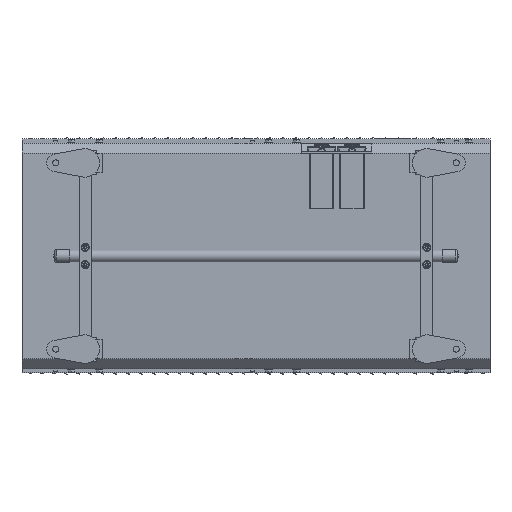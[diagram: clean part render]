
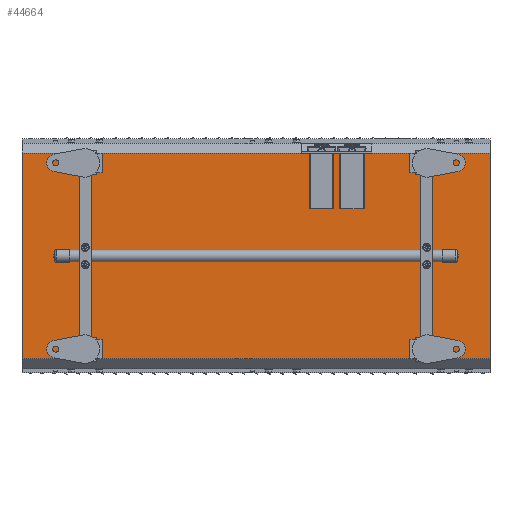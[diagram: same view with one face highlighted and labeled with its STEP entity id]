
A CAD part, front view. The second image highlights one B-rep face of the part: STEP entity #44664.
In plain terms, the highlighted planar face has unit normal (0, -1, 0).
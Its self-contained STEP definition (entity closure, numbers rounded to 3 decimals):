
#363 = LINE ( 'NONE', #39672, #6780 ) ;
#374 = FACE_OUTER_BOUND ( 'NONE', #24500, .T. ) ;
#856 = CARTESIAN_POINT ( 'NONE',  ( 1531.172, -215.213, 219.787 ) ) ;
#3366 = LINE ( 'NONE', #58360, #59254 ) ;
#3401 = VECTOR ( 'NONE', #16233, 1000. ) ;
#4819 = LINE ( 'NONE', #16623, #3401 ) ;
#6780 = VECTOR ( 'NONE', #43661, 1000. ) ;
#8327 = EDGE_CURVE ( 'NONE', #56661, #19575, #38746, .T. ) ;
#13253 = ORIENTED_EDGE ( 'NONE', *, *, #14044, .F. ) ;
#14044 = EDGE_CURVE ( 'NONE', #15127, #39178, #363, .T. ) ;
#14649 = ORIENTED_EDGE ( 'NONE', *, *, #19040, .T. ) ;
#15127 = VERTEX_POINT ( 'NONE', #48711 ) ;
#16233 = DIRECTION ( 'NONE',  ( 0., 0., -1. ) ) ;
#16623 = CARTESIAN_POINT ( 'NONE',  ( 0., -215.213, 219.787 ) ) ;
#18727 = ORIENTED_EDGE ( 'NONE', *, *, #48140, .T. ) ;
#18996 = DIRECTION ( 'NONE',  ( 0., 1., 0. ) ) ;
#19040 = EDGE_CURVE ( 'NONE', #19575, #39178, #4819, .T. ) ;
#19575 = VERTEX_POINT ( 'NONE', #50676 ) ;
#21656 = DIRECTION ( 'NONE',  ( 0., 0., 1. ) ) ;
#24500 = EDGE_LOOP ( 'NONE', ( #13253, #18727, #51980, #14649 ) ) ;
#28706 = VECTOR ( 'NONE', #37908, 1000. ) ;
#28861 = AXIS2_PLACEMENT_3D ( 'NONE', #856, #18996, #37667 ) ;
#37667 = DIRECTION ( 'NONE',  ( 0., 0., 1. ) ) ;
#37908 = DIRECTION ( 'NONE',  ( -1., 0., 0. ) ) ;
#38746 = LINE ( 'NONE', #56505, #28706 ) ;
#39178 = VERTEX_POINT ( 'NONE', #49670 ) ;
#39672 = CARTESIAN_POINT ( 'NONE',  ( 1000., -215.213, -219.787 ) ) ;
#42042 = PLANE ( 'NONE',  #28861 ) ;
#43661 = DIRECTION ( 'NONE',  ( -1., 0., 0. ) ) ;
#44664 = ADVANCED_FACE ( 'NONE', ( #374 ), #42042, .F. ) ;
#48140 = EDGE_CURVE ( 'NONE', #15127, #56661, #3366, .T. ) ;
#48711 = CARTESIAN_POINT ( 'NONE',  ( 1000., -215.213, -219.787 ) ) ;
#49670 = CARTESIAN_POINT ( 'NONE',  ( 0., -215.213, -219.787 ) ) ;
#50676 = CARTESIAN_POINT ( 'NONE',  ( 0., -215.213, 219.787 ) ) ;
#51980 = ORIENTED_EDGE ( 'NONE', *, *, #8327, .T. ) ;
#55523 = CARTESIAN_POINT ( 'NONE',  ( 1000., -215.213, 219.787 ) ) ;
#56505 = CARTESIAN_POINT ( 'NONE',  ( 1531.172, -215.213, 219.787 ) ) ;
#56661 = VERTEX_POINT ( 'NONE', #55523 ) ;
#58360 = CARTESIAN_POINT ( 'NONE',  ( 1000., -215.213, 219.787 ) ) ;
#59254 = VECTOR ( 'NONE', #21656, 1000. ) ;
